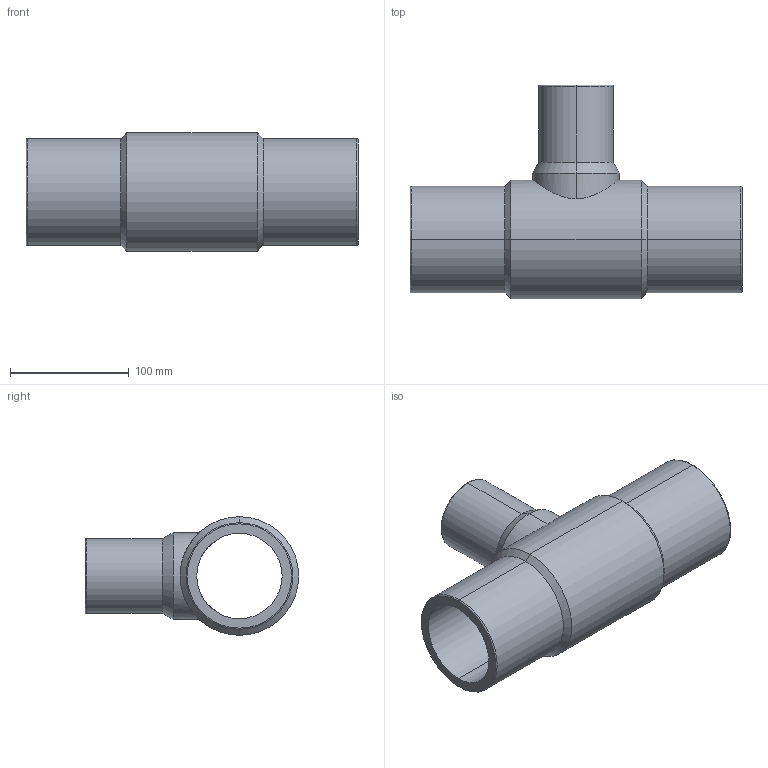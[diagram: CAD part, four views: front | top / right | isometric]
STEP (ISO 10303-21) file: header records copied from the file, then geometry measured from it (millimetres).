
FILE_DESCRIPTION (( 'STEP AP203' ), '1' );
FILE_NAME ('KP_8-90-63.step', '2011-08-08T11:41:01', ( '' ), ( '' ), 'SwSTEP 2.0', 'SolidWorks 2011', '' );
FILE_SCHEMA (( 'CONFIG_CONTROL_DESIGN' ));
Length unit declared in the file: millimetre
Products named in the file (1): KP_8-90-63
Bounding box: 280 x 180 x 100 mm (x, y, z)
Volume: 894250.2 mm3; surface area: 179898.5 mm2
Topology: 1 solids, 1 shells, 29 faces, 60 edges, 34 vertices
Faces by surface type: cylinder 14, torus 6, cone 6, plane 3
Entity records: 1119 total; most frequent: CARTESIAN_POINT 400, DIRECTION 152, ORIENTED_EDGE 120, AXIS2_PLACEMENT_3D 66, EDGE_CURVE 60, CIRCLE 36, VERTEX_POINT 34, EDGE_LOOP 34
